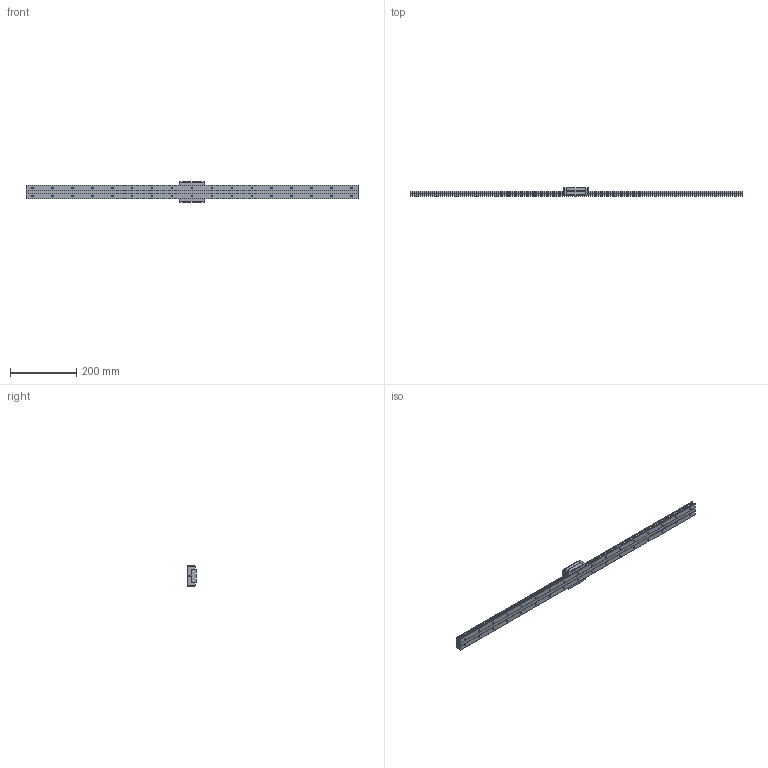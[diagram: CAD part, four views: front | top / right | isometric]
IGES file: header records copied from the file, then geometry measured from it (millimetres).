
Start section: Data from XPlus IGES,  Spatial Corp. Copyright (c) 1999-2004
Global section: file name: SHW27CR1UU1000200463.6000.igs; native system:  By Spatial Corp.; preprocessor: XPlus ACIS/IGES 3.0; author: Noname; organization: Noname; date: 20161110.134623; units: millimetre
Bounding box: 1000 x 27 x 62 mm (x, y, z)
Surface area: 143241.3 mm2 (no closed solid volume)
Topology: 0 solids, 0 shells, 334 faces, 1688 edges, 1672 vertices
Faces by surface type: revolution 204, extrusion 130
